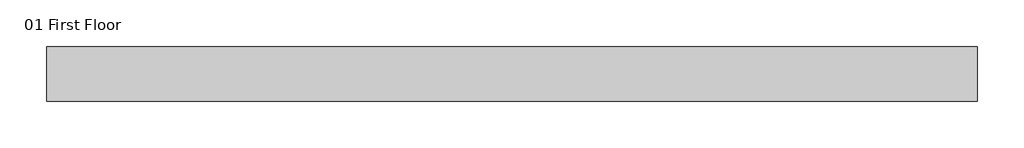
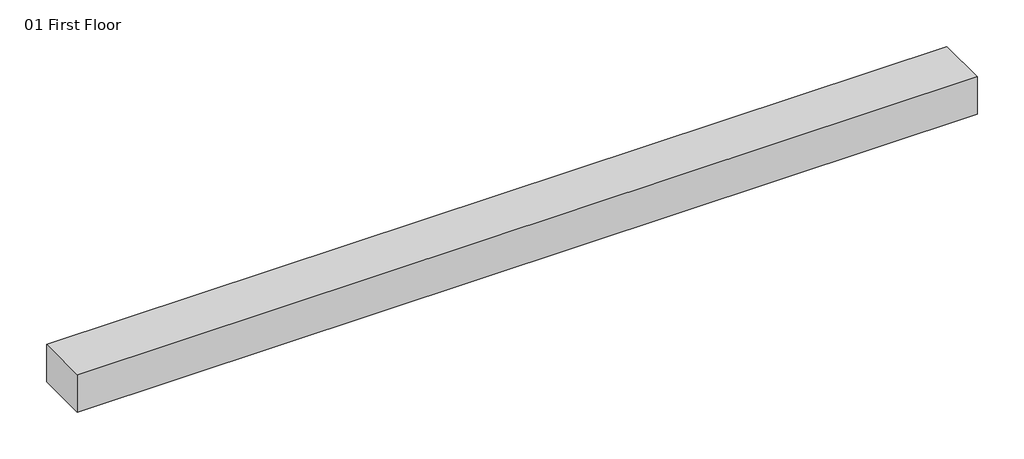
# One storey: 1 beam.
"""IFC4 building model written with IfcOpenShell, lengths in millimetres."""

from ifc_helpers import new_model, si_unit, origin, place, context, project, spatial, faceted_brep, element, save

model = new_model("IFC4")

# Units and contexts
model_context = context("Model", 3, world=origin())
ifc_project = project(units=[si_unit("LENGTHUNIT", "METRE", prefix="MILLI")], contexts=[model_context])

# Site, building, storey
site = spatial("IfcSite", under=ifc_project)
building = spatial("IfcBuilding", under=site)
storey = spatial("IfcBuildingStorey", under=building, Name="01 First Floor", Elevation=3500.0)

# Beam
placement = place(None, origin())
element("IfcBeam", 1, ObjectType="M_Concrete-Rectangular Beam : 400 x 300mm", at=placement, inside=storey, context=model_context, shape_type="Brep", body=[
    faceted_brep([(-8122.5407999, 6337.2898352, 3500.0), (-8122.5407999, 5937.2898352, 3500.0), (-8109.5407999, 5937.2898352, 3500.0), (-1322.5407999, 5937.2898352, 3500.0), (-1322.5407999, 6337.2898352, 3500.0), (-8109.5407999, 6337.2898352, 3500.0), (-8122.5407999, 6337.2898352, 3200.0), (-1322.5407999, 6337.2898352, 3200.0), (-8109.5407999, 6337.2898352, 3200.0), (-8122.5407999, 5937.2898352, 3200.0), (-1322.5407999, 5937.2898352, 3200.0), (-8109.5407999, 5937.2898352, 3200.0)], [[[0, 1, 2, 3, 4, 5]], [[6, 0, 5, 4, 7, 8]], [[9, 6, 8, 7, 10, 11]], [[1, 9, 11, 10, 3, 2]], [[1, 0, 6, 9]], [[4, 3, 10, 7]]]),
])

save(model, "model.ifc")
